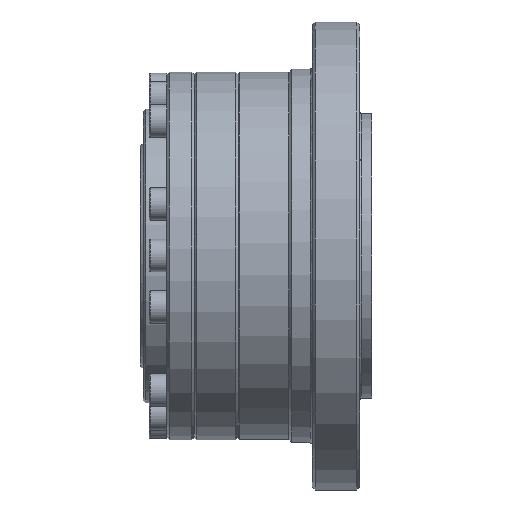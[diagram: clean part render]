
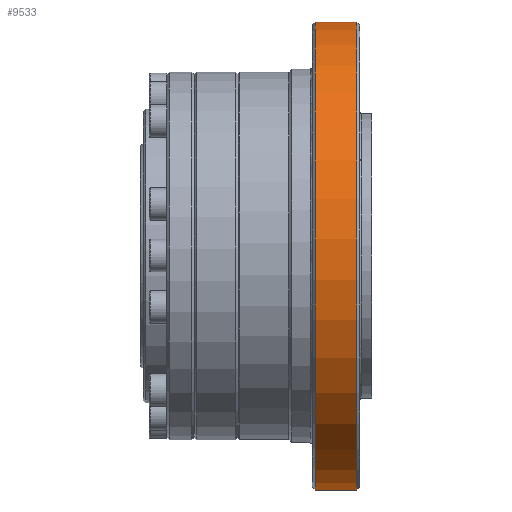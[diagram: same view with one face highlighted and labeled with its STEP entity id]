
A CAD part, front view. The second image highlights one B-rep face of the part: STEP entity #9533.
In plain terms, the highlighted cylindrical face has radius 39.5 mm (diameter 79 mm), a full revolution.
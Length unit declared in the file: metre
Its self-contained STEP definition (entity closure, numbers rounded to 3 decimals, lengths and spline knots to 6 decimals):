
#1471 = ORIENTED_EDGE ( 'NONE', *, *, #2112, .T. ) ;
#2112 = EDGE_CURVE ( 'NONE', #17092, #17092, #6711, .T. ) ;
#2790 = CARTESIAN_POINT ( 'NONE',  ( 0.0112, 0.032018, 0.023132 ) ) ;
#4334 = EDGE_LOOP ( 'NONE', ( #1471 ) ) ;
#6711 = CIRCLE ( 'NONE', #24030, 0.0395 ) ;
#6759 = DIRECTION ( 'NONE',  ( 1., 0., 0. ) ) ;
#7332 = DIRECTION ( 'NONE',  ( -1., 0., 0. ) ) ;
#7592 = VERTEX_POINT ( 'NONE', #2790 ) ;
#8198 = EDGE_CURVE ( 'NONE', #7592, #7592, #28399, .T. ) ;
#9458 = DIRECTION ( 'NONE',  ( 0., 0.811, 0.586 ) ) ;
#9533 = ADVANCED_FACE ( 'NONE', ( #9802, #19565 ), #28726, .T. ) ;
#9802 = FACE_OUTER_BOUND ( 'NONE', #4334, .T. ) ;
#10817 = EDGE_LOOP ( 'NONE', ( #24930 ) ) ;
#13710 = AXIS2_PLACEMENT_3D ( 'NONE', #24062, #7332, #19410 ) ;
#14041 = DIRECTION ( 'NONE',  ( 0., 0.811, 0.586 ) ) ;
#17092 = VERTEX_POINT ( 'NONE', #26553 ) ;
#19410 = DIRECTION ( 'NONE',  ( 0., 0.811, 0.586 ) ) ;
#19565 = FACE_OUTER_BOUND ( 'NONE', #10817, .T. ) ;
#20768 = DIRECTION ( 'NONE',  ( 1., 0., 0. ) ) ;
#21466 = AXIS2_PLACEMENT_3D ( 'NONE', #25750, #20768, #9458 ) ;
#24030 = AXIS2_PLACEMENT_3D ( 'NONE', #28000, #6759, #14041 ) ;
#24062 = CARTESIAN_POINT ( 'NONE',  ( -0.0111, 0., 0. ) ) ;
#24930 = ORIENTED_EDGE ( 'NONE', *, *, #8198, .F. ) ;
#25750 = CARTESIAN_POINT ( 'NONE',  ( 0.0112, 0., 0. ) ) ;
#26553 = CARTESIAN_POINT ( 'NONE',  ( 0.0042, 0.032018, 0.023132 ) ) ;
#28000 = CARTESIAN_POINT ( 'NONE',  ( 0.0042, 0., 0. ) ) ;
#28399 = CIRCLE ( 'NONE', #21466, 0.0395 ) ;
#28726 = CYLINDRICAL_SURFACE ( 'NONE', #13710, 0.0395 ) ;
